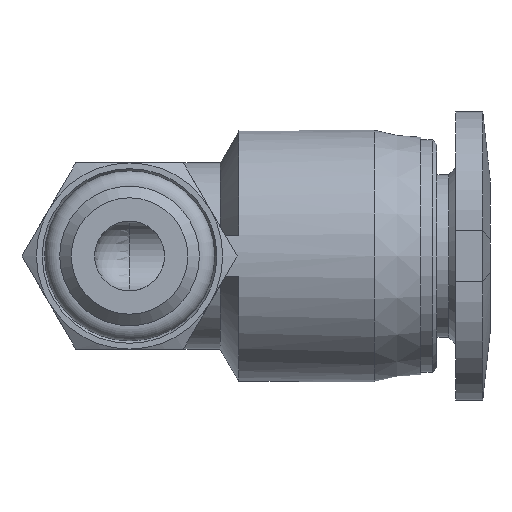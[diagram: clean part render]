
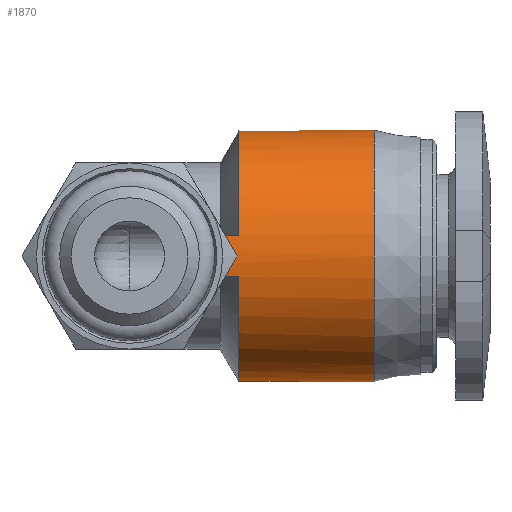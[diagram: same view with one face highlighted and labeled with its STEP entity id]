
A CAD part, front view. The second image highlights one B-rep face of the part: STEP entity #1870.
In plain terms, the highlighted cylindrical face has radius 5.4 mm (diameter 10.8 mm), a full revolution.
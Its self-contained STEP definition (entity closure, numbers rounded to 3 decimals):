
#1686=CARTESIAN_POINT('',(4.7,0.576,-0.9));
#1687=VERTEX_POINT('',#1686);
#1701=CARTESIAN_POINT('',(3.897,0.576,-0.9));
#1702=VERTEX_POINT('',#1701);
#1703=CARTESIAN_POINT('',(4.7,0.576,-0.9));
#1704=DIRECTION('',(-1.0,0.0,0.0));
#1705=VECTOR('',#1704,0.803);
#1706=LINE('',#1703,#1705);
#1707=EDGE_CURVE('',#1687,#1702,#1706,.T.);
#1747=CARTESIAN_POINT('',(4.7,0.576,0.9));
#1748=VERTEX_POINT('',#1747);
#1786=CARTESIAN_POINT('',(3.897,0.576,0.9));
#1787=VERTEX_POINT('',#1786);
#1794=CARTESIAN_POINT('',(4.7,0.576,0.9));
#1795=DIRECTION('',(-1.0,0.0,0.0));
#1796=VECTOR('',#1795,0.803);
#1797=LINE('',#1794,#1796);
#1798=EDGE_CURVE('',#1748,#1787,#1797,.T.);
#1803=CARTESIAN_POINT('',(4.7,5.9,0.0));
#1804=DIRECTION('',(-1.0,0.0,0.0));
#1805=DIRECTION('',(0.0,0.986,0.167));
#1806=AXIS2_PLACEMENT_3D('',#1803,#1804,#1805);
#1807=CYLINDRICAL_SURFACE('',#1806,5.4);
#1808=CARTESIAN_POINT('',(10.5,11.3,0.0));
#1809=VERTEX_POINT('',#1808);
#1810=CARTESIAN_POINT('',(10.5,5.9,0.0));
#1811=DIRECTION('',(1.0,0.0,0.0));
#1812=DIRECTION('',(0.0,1.0,0.0));
#1813=AXIS2_PLACEMENT_3D('',#1810,#1811,#1812);
#1814=CIRCLE('',#1813,5.4);
#1815=EDGE_CURVE('',#1809,#1809,#1814,.T.);
#1816=ORIENTED_EDGE('',*,*,#1815,.F.);
#1817=EDGE_LOOP('',(#1816));
#1818=FACE_OUTER_BOUND('',#1817,.T.);
#1819=CARTESIAN_POINT('',(3.897,0.576,-0.9));
#1820=CARTESIAN_POINT('',(3.962,0.528,-0.621));
#1821=CARTESIAN_POINT('',(3.996,0.503,-0.334));
#1822=CARTESIAN_POINT('',(4.,0.5,-0.054));
#1823=CARTESIAN_POINT('',(4.003,0.498,0.209));
#1824=CARTESIAN_POINT('',(3.981,0.514,0.476));
#1825=CARTESIAN_POINT('',(3.931,0.551,0.74));
#1826=CARTESIAN_POINT('',(3.921,0.558,0.793));
#1827=CARTESIAN_POINT('',(3.91,0.567,0.847));
#1828=CARTESIAN_POINT('',(3.897,0.576,0.9));
#1829=B_SPLINE_CURVE_WITH_KNOTS('',3,(#1819,#1820,#1821,#1822,#1823,#1824,#1825,#1826,#1827,#1828),.UNSPECIFIED.,.F.,.U.,(4,3,3,4),(0.547,0.631,0.71,0.726),.UNSPECIFIED.);
#1830=EDGE_CURVE('',#1702,#1787,#1829,.T.);
#1831=ORIENTED_EDGE('',*,*,#1830,.F.);
#1832=ORIENTED_EDGE('',*,*,#1707,.F.);
#1833=CARTESIAN_POINT('',(4.7,11.224,-0.9));
#1834=VERTEX_POINT('',#1833);
#1835=CARTESIAN_POINT('',(4.7,5.9,0.0));
#1836=DIRECTION('',(1.0,0.0,0.0));
#1837=DIRECTION('',(0.0,1.0,0.0));
#1838=AXIS2_PLACEMENT_3D('',#1835,#1836,#1837);
#1839=CIRCLE('',#1838,5.4);
#1840=EDGE_CURVE('',#1687,#1834,#1839,.T.);
#1841=ORIENTED_EDGE('',*,*,#1840,.T.);
#1842=CARTESIAN_POINT('',(4.7,11.3,0.0));
#1843=VERTEX_POINT('',#1842);
#1844=CARTESIAN_POINT('',(4.7,5.9,0.0));
#1845=DIRECTION('',(1.0,0.0,0.0));
#1846=DIRECTION('',(0.0,1.0,0.0));
#1847=AXIS2_PLACEMENT_3D('',#1844,#1845,#1846);
#1848=CIRCLE('',#1847,5.4);
#1849=EDGE_CURVE('',#1834,#1843,#1848,.T.);
#1850=ORIENTED_EDGE('',*,*,#1849,.T.);
#1851=CARTESIAN_POINT('',(4.7,11.224,0.9));
#1852=VERTEX_POINT('',#1851);
#1853=CARTESIAN_POINT('',(4.7,5.9,0.0));
#1854=DIRECTION('',(1.0,0.0,0.0));
#1855=DIRECTION('',(0.0,1.0,0.0));
#1856=AXIS2_PLACEMENT_3D('',#1853,#1854,#1855);
#1857=CIRCLE('',#1856,5.4);
#1858=EDGE_CURVE('',#1843,#1852,#1857,.T.);
#1859=ORIENTED_EDGE('',*,*,#1858,.T.);
#1860=CARTESIAN_POINT('',(4.7,5.9,0.0));
#1861=DIRECTION('',(1.0,0.0,0.0));
#1862=DIRECTION('',(0.0,1.0,0.0));
#1863=AXIS2_PLACEMENT_3D('',#1860,#1861,#1862);
#1864=CIRCLE('',#1863,5.4);
#1865=EDGE_CURVE('',#1852,#1748,#1864,.T.);
#1866=ORIENTED_EDGE('',*,*,#1865,.T.);
#1867=ORIENTED_EDGE('',*,*,#1798,.T.);
#1868=EDGE_LOOP('',(#1831,#1832,#1841,#1850,#1859,#1866,#1867));
#1869=FACE_BOUND('',#1868,.T.);
#1870=ADVANCED_FACE('',(#1818,#1869),#1807,.T.);
